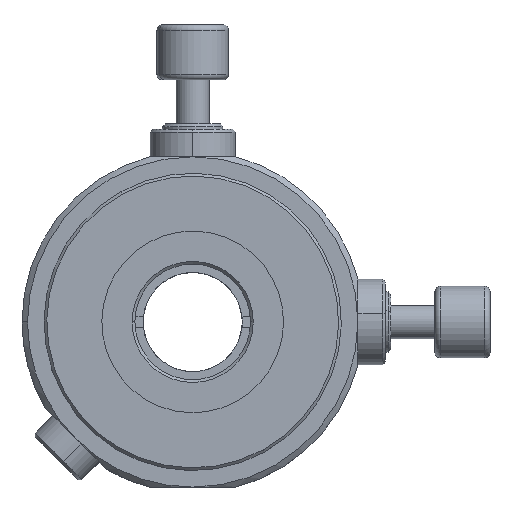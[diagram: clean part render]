
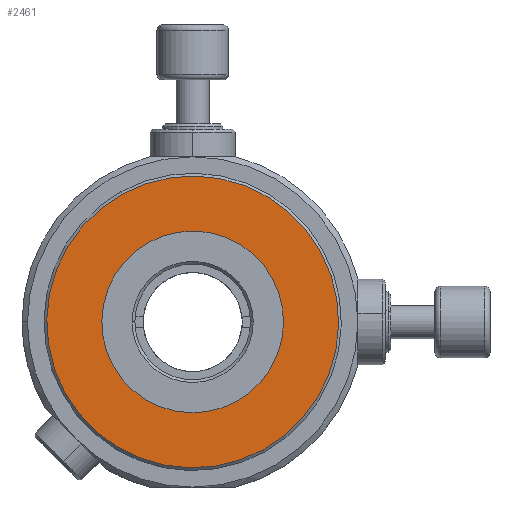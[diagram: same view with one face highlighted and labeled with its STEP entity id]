
A CAD part, top view. The second image highlights one B-rep face of the part: STEP entity #2461.
In plain terms, the highlighted planar face has unit normal (0, 0, 1).
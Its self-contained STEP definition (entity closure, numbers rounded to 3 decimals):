
#79 = DIRECTION ( 'NONE',  ( -0.483, 0.876, 0. ) ) ;
#423 = FACE_BOUND ( 'NONE', #6647, .T. ) ;
#442 = AXIS2_PLACEMENT_3D ( 'NONE', #3907, #6218, #1609 ) ;
#493 = DIRECTION ( 'NONE',  ( 0., 0., 1. ) ) ;
#804 = CARTESIAN_POINT ( 'NONE',  ( 9.384, -14.661, 23. ) ) ;
#913 = CARTESIAN_POINT ( 'NONE',  ( -6.541, 14.242, 23. ) ) ;
#1014 = CIRCLE ( 'NONE', #5121, 26.5 ) ;
#1098 = EDGE_CURVE ( 'NONE', #5258, #2177, #3965, .T. ) ;
#1478 = DIRECTION ( 'NONE',  ( -0.483, 0.876, 0. ) ) ;
#1492 = VERTEX_POINT ( 'NONE', #2648 ) ;
#1609 = DIRECTION ( 'NONE',  ( -0.483, 0.876, 0. ) ) ;
#1780 = EDGE_LOOP ( 'NONE', ( #7605, #7365 ) ) ;
#2005 = FACE_OUTER_BOUND ( 'NONE', #1780, .T. ) ;
#2177 = VERTEX_POINT ( 'NONE', #913 ) ;
#2215 = ORIENTED_EDGE ( 'NONE', *, *, #1098, .T. ) ;
#2388 = DIRECTION ( 'NONE',  ( 0., 0., -1. ) ) ;
#2461 = ADVANCED_FACE ( 'NONE', ( #2005, #423 ), #6568, .F. ) ;
#2602 = ORIENTED_EDGE ( 'NONE', *, *, #6233, .T. ) ;
#2648 = CARTESIAN_POINT ( 'NONE',  ( -11.366, 23.001, 23. ) ) ;
#2664 = VERTEX_POINT ( 'NONE', #7318 ) ;
#2797 = DIRECTION ( 'NONE',  ( -0.483, 0.876, 0. ) ) ;
#3194 = CARTESIAN_POINT ( 'NONE',  ( 1.422, -0.209, 23. ) ) ;
#3237 = DIRECTION ( 'NONE',  ( 0., 0., -1. ) ) ;
#3779 = AXIS2_PLACEMENT_3D ( 'NONE', #4809, #2388, #79 ) ;
#3800 = DIRECTION ( 'NONE',  ( -0.483, 0.876, 0. ) ) ;
#3907 = CARTESIAN_POINT ( 'NONE',  ( 1.422, -0.209, 23. ) ) ;
#3965 = CIRCLE ( 'NONE', #442, 16.5 ) ;
#4595 = AXIS2_PLACEMENT_3D ( 'NONE', #3194, #3237, #3800 ) ;
#4615 = CIRCLE ( 'NONE', #7394, 26.5 ) ;
#4809 = CARTESIAN_POINT ( 'NONE',  ( 1.422, -0.209, 23. ) ) ;
#4987 = EDGE_CURVE ( 'NONE', #2664, #1492, #1014, .T. ) ;
#5024 = CARTESIAN_POINT ( 'NONE',  ( 1.422, -0.209, 23. ) ) ;
#5069 = CIRCLE ( 'NONE', #4595, 16.5 ) ;
#5121 = AXIS2_PLACEMENT_3D ( 'NONE', #5024, #5656, #1478 ) ;
#5258 = VERTEX_POINT ( 'NONE', #804 ) ;
#5656 = DIRECTION ( 'NONE',  ( 0., 0., 1. ) ) ;
#6218 = DIRECTION ( 'NONE',  ( 0., 0., -1. ) ) ;
#6233 = EDGE_CURVE ( 'NONE', #2177, #5258, #5069, .T. ) ;
#6300 = CARTESIAN_POINT ( 'NONE',  ( 1.422, -0.209, 23. ) ) ;
#6568 = PLANE ( 'NONE',  #3779 ) ;
#6647 = EDGE_LOOP ( 'NONE', ( #2602, #2215 ) ) ;
#7318 = CARTESIAN_POINT ( 'NONE',  ( 14.21, -23.42, 23. ) ) ;
#7365 = ORIENTED_EDGE ( 'NONE', *, *, #4987, .T. ) ;
#7366 = EDGE_CURVE ( 'NONE', #1492, #2664, #4615, .T. ) ;
#7394 = AXIS2_PLACEMENT_3D ( 'NONE', #6300, #493, #2797 ) ;
#7605 = ORIENTED_EDGE ( 'NONE', *, *, #7366, .T. ) ;
